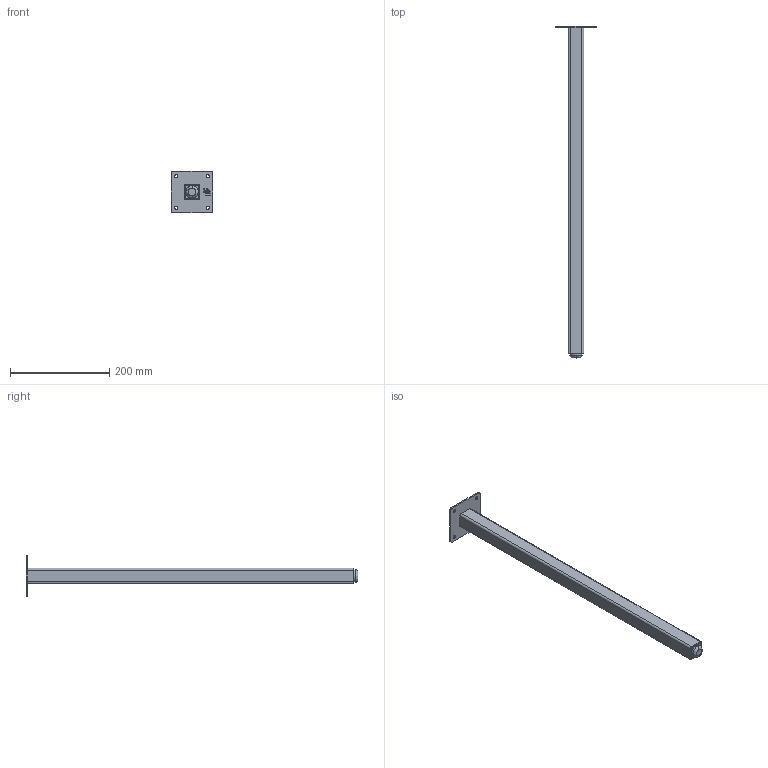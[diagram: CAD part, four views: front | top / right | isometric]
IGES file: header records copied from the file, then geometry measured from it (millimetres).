
Start section: SolidWorks IGES file using analytic representation for surfaces
Bounding box: 84 x 670 x 84 mm (x, y, z)
Surface area: 169632.9 mm2 (no closed solid volume)
Topology: 0 solids, 0 shells, 185 faces, 2509 edges, 2509 vertices
Faces by surface type: bspline 97, revolution 88
